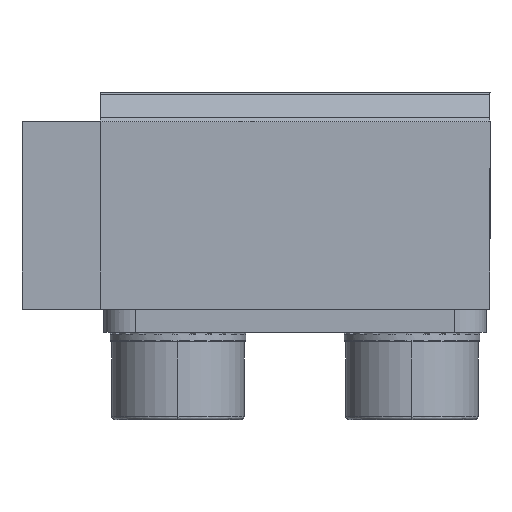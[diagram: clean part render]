
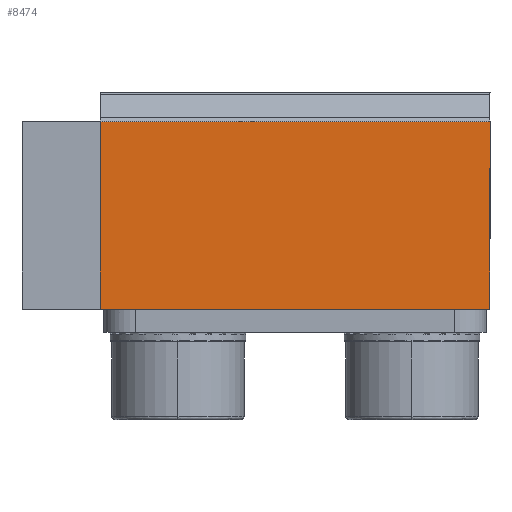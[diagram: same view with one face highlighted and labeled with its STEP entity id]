
A CAD part, front view. The second image highlights one B-rep face of the part: STEP entity #8474.
In plain terms, the highlighted planar face has unit normal (0, -1, 0).
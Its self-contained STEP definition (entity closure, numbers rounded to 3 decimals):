
#172 = EDGE_CURVE ( 'NONE', #35519, #35756, #35640, .T. ) ;
#1444 = CARTESIAN_POINT ( 'NONE',  ( -70.572, -5.647, 18.701 ) ) ;
#2108 = EDGE_CURVE ( 'NONE', #26033, #19613, #7659, .T. ) ;
#2249 = CARTESIAN_POINT ( 'NONE',  ( -70.572, -5.647, 12.701 ) ) ;
#2821 = DIRECTION ( 'NONE',  ( -1., 0., 0. ) ) ;
#3275 = EDGE_CURVE ( 'NONE', #35756, #26033, #20179, .T. ) ;
#4249 = DIRECTION ( 'NONE',  ( 0., 0., -1. ) ) ;
#7057 = DIRECTION ( 'NONE',  ( 0., 0., -1. ) ) ;
#7298 = CARTESIAN_POINT ( 'NONE',  ( -60.572, -5.647, 6.701 ) ) ;
#7659 = LINE ( 'NONE', #2249, #22482 ) ;
#7806 = CARTESIAN_POINT ( 'NONE',  ( -58.072, -5.647, 18.701 ) ) ;
#8218 = EDGE_LOOP ( 'NONE', ( #28491, #25493, #21554, #9895 ) ) ;
#8474 = ADVANCED_FACE ( 'NONE', ( #30163 ), #20838, .T. ) ;
#8677 = CARTESIAN_POINT ( 'NONE',  ( -45.572, -5.647, 12.701 ) ) ;
#9895 = ORIENTED_EDGE ( 'NONE', *, *, #3275, .T. ) ;
#12758 = VECTOR ( 'NONE', #2821, 1000. ) ;
#19300 = DIRECTION ( 'NONE',  ( 0., 0., 1. ) ) ;
#19613 = VERTEX_POINT ( 'NONE', #27513 ) ;
#19835 = CARTESIAN_POINT ( 'NONE',  ( -45.572, -5.647, 6.701 ) ) ;
#20179 = LINE ( 'NONE', #7806, #12758 ) ;
#20838 = PLANE ( 'NONE',  #32553 ) ;
#20954 = DIRECTION ( 'NONE',  ( 0., -1., 0. ) ) ;
#21554 = ORIENTED_EDGE ( 'NONE', *, *, #172, .T. ) ;
#22482 = VECTOR ( 'NONE', #7057, 1000. ) ;
#23869 = VECTOR ( 'NONE', #29601, 1000. ) ;
#25493 = ORIENTED_EDGE ( 'NONE', *, *, #35174, .F. ) ;
#26033 = VERTEX_POINT ( 'NONE', #32084 ) ;
#27513 = CARTESIAN_POINT ( 'NONE',  ( -70.572, -5.647, 6.701 ) ) ;
#28271 = VECTOR ( 'NONE', #19300, 1000. ) ;
#28491 = ORIENTED_EDGE ( 'NONE', *, *, #2108, .T. ) ;
#29601 = DIRECTION ( 'NONE',  ( -1., 0., 0. ) ) ;
#30163 = FACE_OUTER_BOUND ( 'NONE', #8218, .T. ) ;
#31978 = CARTESIAN_POINT ( 'NONE',  ( -45.572, -5.647, 18.701 ) ) ;
#32084 = CARTESIAN_POINT ( 'NONE',  ( -70.572, -5.647, 18.701 ) ) ;
#32553 = AXIS2_PLACEMENT_3D ( 'NONE', #1444, #20954, #4249 ) ;
#33854 = LINE ( 'NONE', #7298, #23869 ) ;
#35174 = EDGE_CURVE ( 'NONE', #35519, #19613, #33854, .T. ) ;
#35519 = VERTEX_POINT ( 'NONE', #19835 ) ;
#35640 = LINE ( 'NONE', #8677, #28271 ) ;
#35756 = VERTEX_POINT ( 'NONE', #31978 ) ;
